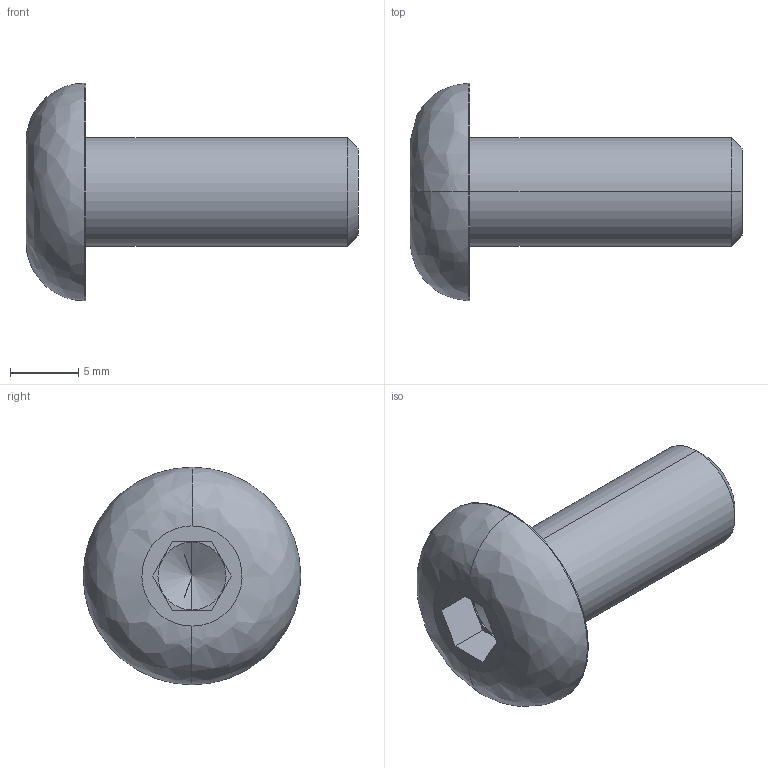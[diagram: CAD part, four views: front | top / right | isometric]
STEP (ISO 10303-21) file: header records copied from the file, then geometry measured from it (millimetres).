
FILE_DESCRIPTION (( 'STEP AP214' ), '1' );
FILE_NAME ('ISO7380_8x20.STEP', '2016-05-18T14:44:30', ( '' ), ( '' ), 'SwSTEP 2.0', 'SolidWorks 2014', '' );
FILE_SCHEMA (( 'AUTOMOTIVE_DESIGN' ));
Length unit declared in the file: millimetre
Products named in the file (1): ISO7380_8x20
Bounding box: 24.4 x 16 x 16 mm (x, y, z)
Volume: 1632.8 mm3; surface area: 1066.5 mm2
Topology: 1 solids, 1 shells, 27 faces, 59 edges, 34 vertices
Faces by surface type: plane 15, cylinder 6, cone 4, bspline 2
Entity records: 771 total; most frequent: CARTESIAN_POINT 158, DIRECTION 126, ORIENTED_EDGE 114, EDGE_CURVE 57, AXIS2_PLACEMENT_3D 46, VECTOR 34, LINE 34, VERTEX_POINT 34
